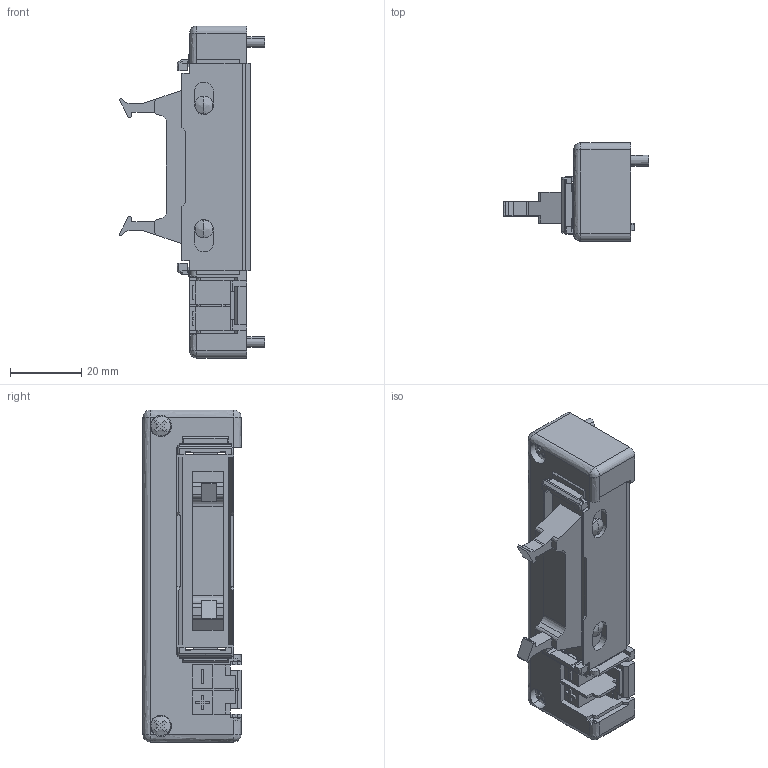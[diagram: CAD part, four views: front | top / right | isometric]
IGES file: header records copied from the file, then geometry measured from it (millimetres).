
Start section: ------------------------------------------------------------------------
Global section: file name: D:\ICADMX\tmp\trans3d_spg\CVICAD32.14756.FZX-F20x-E_10051.igs; native system: spGate; preprocessor: ver12.6.6; author: Unknown; organization: Unknown; date: 200909.091704; units: millimetre
Bounding box: 40.7 x 27.5 x 93 mm (x, y, z)
Volume: 34802.4 mm3; surface area: 14959.6 mm2
Topology: 2 solids, 2 shells, 415 faces, 1206 edges, 778 vertices
Faces by surface type: bspline 415
